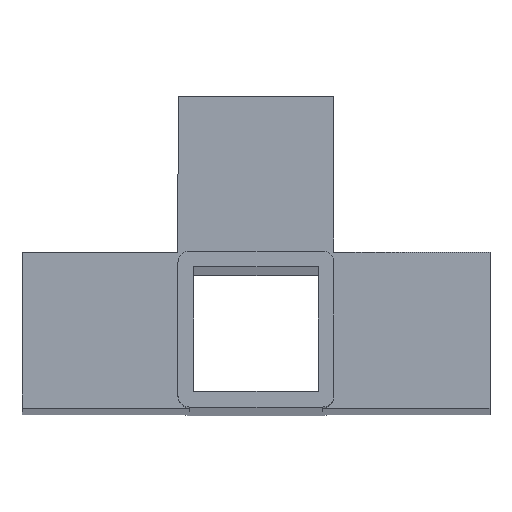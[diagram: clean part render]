
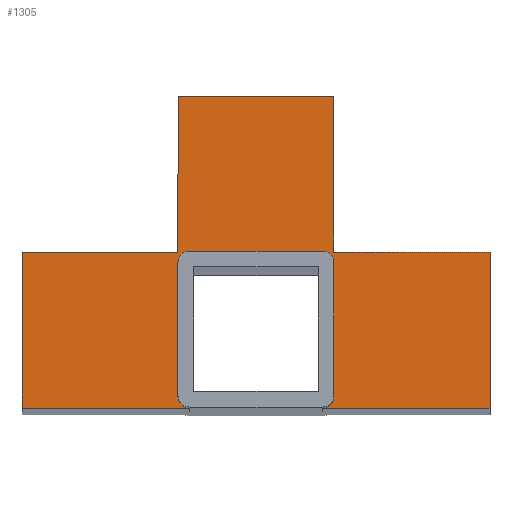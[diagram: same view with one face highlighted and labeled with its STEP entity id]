
A CAD part, top view. The second image highlights one B-rep face of the part: STEP entity #1305.
In plain terms, the highlighted planar face has unit normal (0, 0, 1).
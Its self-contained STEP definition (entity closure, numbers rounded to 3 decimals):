
#21 = ORIENTED_EDGE ( 'NONE', *, *, #1181, .F. ) ;
#45 = CARTESIAN_POINT ( 'NONE',  ( 60., -20., 500. ) ) ;
#50 = DIRECTION ( 'NONE',  ( 0., 0., -1. ) ) ;
#57 = CIRCLE ( 'NONE', #578, 3. ) ;
#73 = CARTESIAN_POINT ( 'NONE',  ( 20., -17., 500. ) ) ;
#102 = DIRECTION ( 'NONE',  ( 0., 0., 1. ) ) ;
#109 = VERTEX_POINT ( 'NONE', #774 ) ;
#116 = EDGE_CURVE ( 'NONE', #932, #242, #879, .T. ) ;
#121 = ORIENTED_EDGE ( 'NONE', *, *, #1207, .F. ) ;
#126 = CARTESIAN_POINT ( 'NONE',  ( 17., 20., 500. ) ) ;
#129 = EDGE_CURVE ( 'NONE', #1248, #869, #1076, .T. ) ;
#131 = VERTEX_POINT ( 'NONE', #526 ) ;
#137 = DIRECTION ( 'NONE',  ( 1., 0., 0. ) ) ;
#152 = VERTEX_POINT ( 'NONE', #413 ) ;
#154 = VECTOR ( 'NONE', #319, 1000. ) ;
#156 = DIRECTION ( 'NONE',  ( 0., 0., 1. ) ) ;
#199 = EDGE_CURVE ( 'NONE', #152, #837, #757, .T. ) ;
#211 = EDGE_CURVE ( 'NONE', #109, #867, #1427, .T. ) ;
#236 = VECTOR ( 'NONE', #137, 1000. ) ;
#242 = VERTEX_POINT ( 'NONE', #45 ) ;
#254 = CIRCLE ( 'NONE', #286, 3. ) ;
#267 = EDGE_CURVE ( 'NONE', #547, #869, #834, .T. ) ;
#282 = CARTESIAN_POINT ( 'NONE',  ( -17., -20., 500. ) ) ;
#284 = DIRECTION ( 'NONE',  ( 0., -1., 0. ) ) ;
#286 = AXIS2_PLACEMENT_3D ( 'NONE', #473, #1567, #713 ) ;
#301 = EDGE_CURVE ( 'NONE', #867, #1558, #466, .T. ) ;
#306 = DIRECTION ( 'NONE',  ( 0., -1., 0. ) ) ;
#319 = DIRECTION ( 'NONE',  ( 1., 0., 0. ) ) ;
#325 = CARTESIAN_POINT ( 'NONE',  ( -60., -20., 500. ) ) ;
#338 = VERTEX_POINT ( 'NONE', #1410 ) ;
#381 = ORIENTED_EDGE ( 'NONE', *, *, #1123, .F. ) ;
#391 = PLANE ( 'NONE',  #1445 ) ;
#395 = ORIENTED_EDGE ( 'NONE', *, *, #1388, .F. ) ;
#405 = EDGE_CURVE ( 'NONE', #1558, #932, #1312, .T. ) ;
#406 = CARTESIAN_POINT ( 'NONE',  ( 20., 0., 500. ) ) ;
#413 = CARTESIAN_POINT ( 'NONE',  ( -60., 20., 500. ) ) ;
#415 = VECTOR ( 'NONE', #1377, 1000. ) ;
#417 = EDGE_LOOP ( 'NONE', ( #584, #956, #1263, #1576, #903, #121, #1404, #1419, #1197, #1070, #654, #1108, #21, #381, #638, #395 ) ) ;
#437 = CARTESIAN_POINT ( 'NONE',  ( -20., 0., 500. ) ) ;
#466 = LINE ( 'NONE', #406, #415 ) ;
#473 = CARTESIAN_POINT ( 'NONE',  ( -17., 17., 500. ) ) ;
#509 = VECTOR ( 'NONE', #1034, 1000. ) ;
#515 = LINE ( 'NONE', #1089, #1519 ) ;
#526 = CARTESIAN_POINT ( 'NONE',  ( -20., 17., 500. ) ) ;
#547 = VERTEX_POINT ( 'NONE', #1468 ) ;
#578 = AXIS2_PLACEMENT_3D ( 'NONE', #798, #50, #1135 ) ;
#584 = ORIENTED_EDGE ( 'NONE', *, *, #1007, .F. ) ;
#634 = VECTOR ( 'NONE', #1092, 1000. ) ;
#638 = ORIENTED_EDGE ( 'NONE', *, *, #968, .F. ) ;
#642 = CARTESIAN_POINT ( 'NONE',  ( -20., 0., 500. ) ) ;
#645 = LINE ( 'NONE', #870, #1580 ) ;
#654 = ORIENTED_EDGE ( 'NONE', *, *, #919, .F. ) ;
#684 = CARTESIAN_POINT ( 'NONE',  ( 0., 20., 500. ) ) ;
#686 = DIRECTION ( 'NONE',  ( 0., 1., 0. ) ) ;
#708 = CARTESIAN_POINT ( 'NONE',  ( 0., -20., 500. ) ) ;
#713 = DIRECTION ( 'NONE',  ( 1., 0., 0. ) ) ;
#715 = VERTEX_POINT ( 'NONE', #282 ) ;
#736 = FACE_OUTER_BOUND ( 'NONE', #417, .T. ) ;
#747 = DIRECTION ( 'NONE',  ( 1., 0., 0. ) ) ;
#749 = LINE ( 'NONE', #708, #634 ) ;
#753 = EDGE_CURVE ( 'NONE', #1374, #1293, #1280, .T. ) ;
#757 = LINE ( 'NONE', #684, #154 ) ;
#774 = CARTESIAN_POINT ( 'NONE',  ( -20., 60., 500. ) ) ;
#798 = CARTESIAN_POINT ( 'NONE',  ( 17., 17., 500. ) ) ;
#809 = CARTESIAN_POINT ( 'NONE',  ( 20., 20., 500. ) ) ;
#833 = CARTESIAN_POINT ( 'NONE',  ( -17., -17., 500. ) ) ;
#834 = LINE ( 'NONE', #1290, #1508 ) ;
#837 = VERTEX_POINT ( 'NONE', #1036 ) ;
#857 = LINE ( 'NONE', #437, #1079 ) ;
#867 = VERTEX_POINT ( 'NONE', #1426 ) ;
#869 = VERTEX_POINT ( 'NONE', #73 ) ;
#870 = CARTESIAN_POINT ( 'NONE',  ( 0., -20., 500. ) ) ;
#877 = DIRECTION ( 'NONE',  ( 0., 0., 1. ) ) ;
#879 = LINE ( 'NONE', #1017, #1439 ) ;
#896 = VECTOR ( 'NONE', #1250, 1000. ) ;
#903 = ORIENTED_EDGE ( 'NONE', *, *, #129, .F. ) ;
#919 = EDGE_CURVE ( 'NONE', #837, #109, #857, .T. ) ;
#932 = VERTEX_POINT ( 'NONE', #937 ) ;
#937 = CARTESIAN_POINT ( 'NONE',  ( 60., 20., 500. ) ) ;
#956 = ORIENTED_EDGE ( 'NONE', *, *, #753, .T. ) ;
#968 = EDGE_CURVE ( 'NONE', #338, #715, #1413, .T. ) ;
#974 = CARTESIAN_POINT ( 'NONE',  ( 0., 20., 500. ) ) ;
#991 = CARTESIAN_POINT ( 'NONE',  ( 0., 0., 500. ) ) ;
#1007 = EDGE_CURVE ( 'NONE', #1374, #131, #254, .T. ) ;
#1017 = CARTESIAN_POINT ( 'NONE',  ( 60., 0., 500. ) ) ;
#1034 = DIRECTION ( 'NONE',  ( 1., 0., 0. ) ) ;
#1036 = CARTESIAN_POINT ( 'NONE',  ( -20., 20., 500. ) ) ;
#1070 = ORIENTED_EDGE ( 'NONE', *, *, #211, .F. ) ;
#1076 = CIRCLE ( 'NONE', #1158, 3. ) ;
#1079 = VECTOR ( 'NONE', #686, 1000. ) ;
#1089 = CARTESIAN_POINT ( 'NONE',  ( -60., 0., 500. ) ) ;
#1092 = DIRECTION ( 'NONE',  ( -1., 0., 0. ) ) ;
#1108 = ORIENTED_EDGE ( 'NONE', *, *, #199, .F. ) ;
#1123 = EDGE_CURVE ( 'NONE', #715, #1590, #749, .T. ) ;
#1135 = DIRECTION ( 'NONE',  ( 1., 0., 0. ) ) ;
#1158 = AXIS2_PLACEMENT_3D ( 'NONE', #1521, #156, #1272 ) ;
#1181 = EDGE_CURVE ( 'NONE', #1590, #152, #515, .T. ) ;
#1197 = ORIENTED_EDGE ( 'NONE', *, *, #301, .F. ) ;
#1207 = EDGE_CURVE ( 'NONE', #242, #1248, #645, .T. ) ;
#1248 = VERTEX_POINT ( 'NONE', #1469 ) ;
#1250 = DIRECTION ( 'NONE',  ( 1., 0., 0. ) ) ;
#1258 = CARTESIAN_POINT ( 'NONE',  ( 0., 20., 500. ) ) ;
#1263 = ORIENTED_EDGE ( 'NONE', *, *, #1467, .T. ) ;
#1272 = DIRECTION ( 'NONE',  ( 1., 0., 0. ) ) ;
#1280 = LINE ( 'NONE', #1258, #236 ) ;
#1290 = CARTESIAN_POINT ( 'NONE',  ( 20., 0., 500. ) ) ;
#1293 = VERTEX_POINT ( 'NONE', #126 ) ;
#1305 = ADVANCED_FACE ( 'NONE', ( #736 ), #391, .T. ) ;
#1312 = LINE ( 'NONE', #974, #896 ) ;
#1374 = VERTEX_POINT ( 'NONE', #1495 ) ;
#1377 = DIRECTION ( 'NONE',  ( 0., -1., 0. ) ) ;
#1388 = EDGE_CURVE ( 'NONE', #131, #338, #1563, .T. ) ;
#1404 = ORIENTED_EDGE ( 'NONE', *, *, #116, .F. ) ;
#1410 = CARTESIAN_POINT ( 'NONE',  ( -20., -17., 500. ) ) ;
#1413 = CIRCLE ( 'NONE', #1530, 3. ) ;
#1419 = ORIENTED_EDGE ( 'NONE', *, *, #405, .F. ) ;
#1426 = CARTESIAN_POINT ( 'NONE',  ( 20., 60., 500. ) ) ;
#1427 = LINE ( 'NONE', #1528, #509 ) ;
#1439 = VECTOR ( 'NONE', #284, 1000. ) ;
#1445 = AXIS2_PLACEMENT_3D ( 'NONE', #991, #877, #747 ) ;
#1462 = DIRECTION ( 'NONE',  ( -1., 0., 0. ) ) ;
#1467 = EDGE_CURVE ( 'NONE', #1293, #547, #57, .T. ) ;
#1468 = CARTESIAN_POINT ( 'NONE',  ( 20., 17., 500. ) ) ;
#1469 = CARTESIAN_POINT ( 'NONE',  ( 17., -20., 500. ) ) ;
#1484 = DIRECTION ( 'NONE',  ( 0., -1., 0. ) ) ;
#1493 = VECTOR ( 'NONE', #1484, 1000. ) ;
#1495 = CARTESIAN_POINT ( 'NONE',  ( -17., 20., 500. ) ) ;
#1508 = VECTOR ( 'NONE', #306, 1000. ) ;
#1519 = VECTOR ( 'NONE', #1582, 1000. ) ;
#1521 = CARTESIAN_POINT ( 'NONE',  ( 17., -17., 500. ) ) ;
#1528 = CARTESIAN_POINT ( 'NONE',  ( 0., 60., 500. ) ) ;
#1530 = AXIS2_PLACEMENT_3D ( 'NONE', #833, #102, #1555 ) ;
#1555 = DIRECTION ( 'NONE',  ( 1., 0., 0. ) ) ;
#1558 = VERTEX_POINT ( 'NONE', #809 ) ;
#1563 = LINE ( 'NONE', #642, #1493 ) ;
#1567 = DIRECTION ( 'NONE',  ( 0., 0., 1. ) ) ;
#1576 = ORIENTED_EDGE ( 'NONE', *, *, #267, .T. ) ;
#1580 = VECTOR ( 'NONE', #1462, 1000. ) ;
#1582 = DIRECTION ( 'NONE',  ( 0., 1., 0. ) ) ;
#1590 = VERTEX_POINT ( 'NONE', #325 ) ;
